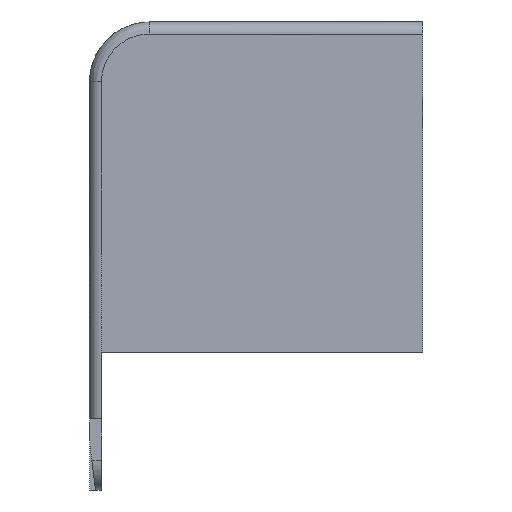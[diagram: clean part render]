
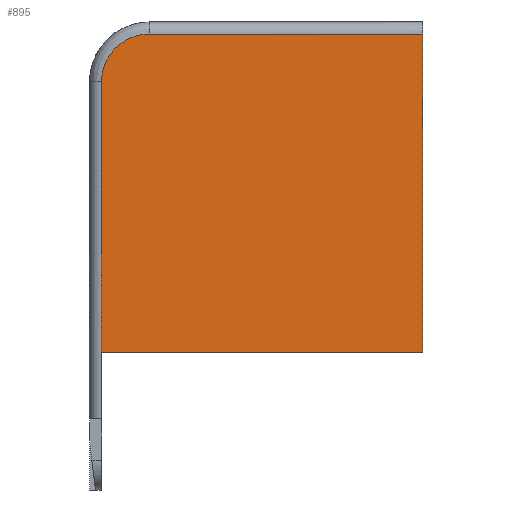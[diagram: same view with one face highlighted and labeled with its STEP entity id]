
A CAD part, left-side view. The second image highlights one B-rep face of the part: STEP entity #895.
In plain terms, the highlighted planar face has unit normal (-1, 0.003, 0).
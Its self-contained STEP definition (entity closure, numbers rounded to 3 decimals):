
#895 = ADVANCED_FACE ( 'NONE', ( #12217 ), #13352, .T. ) ;
#2961 = VERTEX_POINT ( 'NONE', #15570 ) ;
#2968 = VERTEX_POINT ( 'NONE', #15577 ) ;
#3033 = VERTEX_POINT ( 'NONE', #15642 ) ;
#3202 = VERTEX_POINT ( 'NONE', #15811 ) ;
#4909 = EDGE_CURVE ( 'NONE', #2961, #2968, #18007, .T. ) ;
#5830 = EDGE_LOOP ( 'NONE', ( #7524, #7525, #7526, #7527, #7528, #7529, #7530 ) ) ;
#6328 = EDGE_CURVE ( 'NONE', #3033, #2968, #18336, .T. ) ;
#6502 = EDGE_CURVE ( 'NONE', #3202, #3033, #18569, .T. ) ;
#7524 = ORIENTED_EDGE ( 'NONE', *, *, #8648, .T. ) ;
#7525 = ORIENTED_EDGE ( 'NONE', *, *, #8649, .T. ) ;
#7526 = ORIENTED_EDGE ( 'NONE', *, *, #8650, .F. ) ;
#7527 = ORIENTED_EDGE ( 'NONE', *, *, #4909, .T. ) ;
#7528 = ORIENTED_EDGE ( 'NONE', *, *, #6328, .F. ) ;
#7529 = ORIENTED_EDGE ( 'NONE', *, *, #6502, .F. ) ;
#7530 = ORIENTED_EDGE ( 'NONE', *, *, #8651, .T. ) ;
#7974 = VERTEX_POINT ( 'NONE', #22446 ) ;
#7985 = VERTEX_POINT ( 'NONE', #22457 ) ;
#7987 = VERTEX_POINT ( 'NONE', #22459 ) ;
#8648 = EDGE_CURVE ( 'NONE', #7985, #7974, #14718, .T. ) ;
#8649 = EDGE_CURVE ( 'NONE', #7974, #7987, #21491, .T. ) ;
#8650 = EDGE_CURVE ( 'NONE', #2961, #7987, #21492, .T. ) ;
#8651 = EDGE_CURVE ( 'NONE', #3202, #7985, #21494, .T. ) ;
#12217 = FACE_OUTER_BOUND ( 'NONE', #5830, .T. ) ;
#13352 = PLANE ( 'NONE',  #13834 ) ;
#13354 = CARTESIAN_POINT ( 'NONE',  ( -52.5, 55.5, -10. ) ) ;
#13359 = DIRECTION ( 'NONE',  ( -1., 0.003, 0. ) ) ;
#13360 = DIRECTION ( 'NONE',  ( -0.003, -1., 0. ) ) ;
#13834 = AXIS2_PLACEMENT_3D ( 'NONE', #13354, #13359, #13360 ) ;
#14718 =( BOUNDED_CURVE ( )  B_SPLINE_CURVE ( 3, ( #22843, #22842, #22850, #22851 ),
 .UNSPECIFIED., .F., .F. ) 
 B_SPLINE_CURVE_WITH_KNOTS ( ( 4, 4 ),
 ( 1.571, 3.142 ),
 .UNSPECIFIED. ) 
 CURVE ( )  GEOMETRIC_REPRESENTATION_ITEM ( )  RATIONAL_B_SPLINE_CURVE ( ( 1., 0.805, 0.805, 1. ) ) 
 REPRESENTATION_ITEM ( '' )  );
#15570 = CARTESIAN_POINT ( 'NONE',  ( -52.505, 53.5, -66. ) ) ;
#15577 = CARTESIAN_POINT ( 'NONE',  ( -52.505, 53.5, -55. ) ) ;
#15642 = CARTESIAN_POINT ( 'NONE',  ( -52.65, 0., -55. ) ) ;
#15811 = CARTESIAN_POINT ( 'NONE',  ( -52.65, 0., -2. ) ) ;
#17595 = CARTESIAN_POINT ( 'NONE',  ( -52.505, 53.5, -55. ) ) ;
#17596 = DIRECTION ( 'NONE',  ( 0., 0., 1. ) ) ;
#18007 = LINE ( 'NONE', #17595, #18010 ) ;
#18010 = VECTOR ( 'NONE', #17596, 1000. ) ;
#18336 = LINE ( 'NONE', #19943, #18339 ) ;
#18339 = VECTOR ( 'NONE', #19944, 1000. ) ;
#18569 = LINE ( 'NONE', #20408, #18571 ) ;
#18571 = VECTOR ( 'NONE', #20409, 1000. ) ;
#19943 = CARTESIAN_POINT ( 'NONE',  ( -52.5, 55.5, -55. ) ) ;
#19944 = DIRECTION ( 'NONE',  ( 0.003, 1., 0. ) ) ;
#20408 = CARTESIAN_POINT ( 'NONE',  ( -52.65, 0., -10. ) ) ;
#20409 = DIRECTION ( 'NONE',  ( 0., 0., -1. ) ) ;
#21491 = LINE ( 'NONE', #22852, #21493 ) ;
#21492 = LINE ( 'NONE', #22854, #21495 ) ;
#21493 = VECTOR ( 'NONE', #22853, 1000. ) ;
#21494 = LINE ( 'NONE', #22856, #21497 ) ;
#21495 = VECTOR ( 'NONE', #22855, 1000. ) ;
#21497 = VECTOR ( 'NONE', #22857, 1000. ) ;
#22446 = CARTESIAN_POINT ( 'NONE',  ( -52.505, 53.505, -10. ) ) ;
#22457 = CARTESIAN_POINT ( 'NONE',  ( -52.527, 45.505, -2. ) ) ;
#22459 = CARTESIAN_POINT ( 'NONE',  ( -52.505, 53.505, -66. ) ) ;
#22842 = CARTESIAN_POINT ( 'NONE',  ( -52.514, 50.192, -2. ) ) ;
#22843 = CARTESIAN_POINT ( 'NONE',  ( -52.527, 45.505, -2. ) ) ;
#22850 = CARTESIAN_POINT ( 'NONE',  ( -52.505, 53.505, -5.314 ) ) ;
#22851 = CARTESIAN_POINT ( 'NONE',  ( -52.505, 53.505, -10. ) ) ;
#22852 = CARTESIAN_POINT ( 'NONE',  ( -52.505, 53.505, -66. ) ) ;
#22853 = DIRECTION ( 'NONE',  ( 0., 0., -1. ) ) ;
#22854 = CARTESIAN_POINT ( 'NONE',  ( -52.505, 53.784, -66. ) ) ;
#22855 = DIRECTION ( 'NONE',  ( 0.003, 1., 0. ) ) ;
#22856 = CARTESIAN_POINT ( 'NONE',  ( -52.527, 45.5, -2. ) ) ;
#22857 = DIRECTION ( 'NONE',  ( 0.003, 1., 0. ) ) ;
